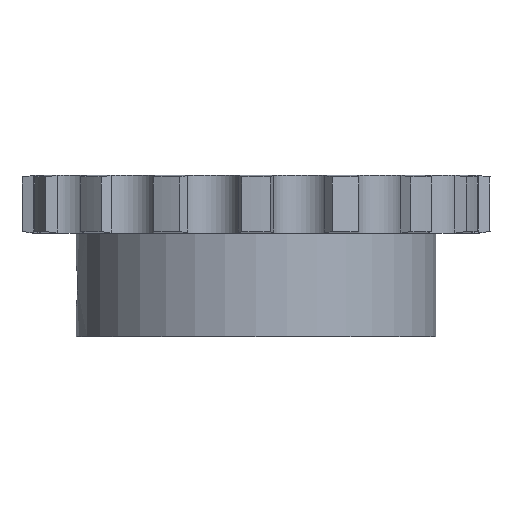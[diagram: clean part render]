
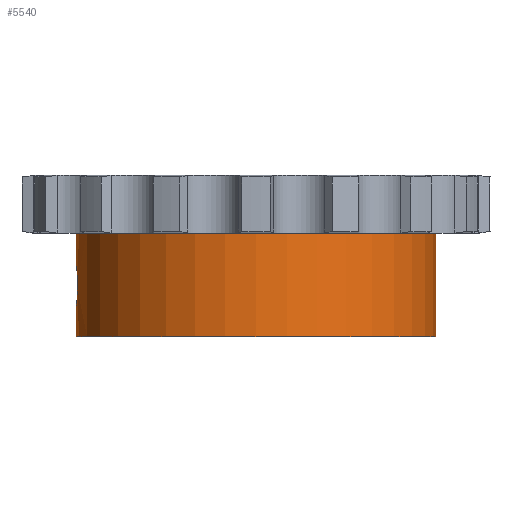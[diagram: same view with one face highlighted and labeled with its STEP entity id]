
A CAD part, front view. The second image highlights one B-rep face of the part: STEP entity #5540.
In plain terms, the highlighted cylindrical face has radius 50 mm (diameter 100 mm), a partial arc.
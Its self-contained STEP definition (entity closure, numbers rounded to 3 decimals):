
#1039=CARTESIAN_POINT('',(0.,0.,-8.1));
#1040=DIRECTION('',(0.,0.,1.));
#1041=DIRECTION('',(-1.,0.,0.));
#1042=AXIS2_PLACEMENT_3D('',#1039,#1040,#1041);
#2590=CARTESIAN_POINT('',(-50.,0.,
-16.5));
#2615=DIRECTION('',(0.,0.,1.));
#2616=VECTOR('',#2615,28.8);
#2617=CARTESIAN_POINT('',(50.,0.,-36.9));
#2618=LINE('',#2617,#2616);
#2744=CARTESIAN_POINT('',(-50.,0.,
-16.5));
#2745=CARTESIAN_POINT('',(-50.,-0.226,
-16.5));
#2746=CARTESIAN_POINT('',(-49.997,-0.706,
-16.526));
#2747=CARTESIAN_POINT('',(-49.981,-1.431,
-16.651));
#2748=CARTESIAN_POINT('',(-49.955,-2.16,
-16.871));
#2749=CARTESIAN_POINT('',(-49.92,-2.855,
-17.178));
#2750=CARTESIAN_POINT('',(-49.878,-3.506,
-17.569));
#2751=CARTESIAN_POINT('',(-49.832,-4.103,
-18.035));
#2752=CARTESIAN_POINT('',(-49.786,-4.633,
-18.568));
#2753=CARTESIAN_POINT('',(-49.741,-5.09,
-19.158));
#2754=CARTESIAN_POINT('',(-49.7,-5.47,
-19.799));
#2755=CARTESIAN_POINT('',(-49.666,-5.767,
-20.482));
#2756=CARTESIAN_POINT('',(-49.642,-5.975,
-21.191));
#2757=CARTESIAN_POINT('',(-49.628,-6.085,
-21.869));
#2758=CARTESIAN_POINT('',(-49.626,-6.107,
-22.305));
#2759=CARTESIAN_POINT('',(-49.626,-6.107,
-22.5));
#2764=DIRECTION('',(0.,0.,1.));
#2765=VECTOR('',#2764,8.4);
#2766=CARTESIAN_POINT('',(-50.,0.,
-16.5));
#2767=LINE('',#2766,#2765);
#2771=DIRECTION('',(0.,0.,1.));
#2772=VECTOR('',#2771,8.4);
#2773=CARTESIAN_POINT('',(-50.,0.,-36.9));
#2774=LINE('',#2773,#2772);
#2778=CARTESIAN_POINT('',(-49.626,-6.107,
-22.5));
#2779=CARTESIAN_POINT('',(-49.626,-6.107,
-22.706));
#2780=CARTESIAN_POINT('',(-49.629,-6.084,
-23.153));
#2781=CARTESIAN_POINT('',(-49.643,-5.968,
-23.84));
#2782=CARTESIAN_POINT('',(-49.668,-5.757,
-24.546));
#2783=CARTESIAN_POINT('',(-49.702,-5.458,
-25.225));
#2784=CARTESIAN_POINT('',(-49.742,-5.077,
-25.862));
#2785=CARTESIAN_POINT('',(-49.787,-4.619,
-26.448));
#2786=CARTESIAN_POINT('',(-49.834,-4.089,
-26.977));
#2787=CARTESIAN_POINT('',(-49.879,-3.494,
-27.44));
#2788=CARTESIAN_POINT('',(-49.921,-2.844,
-27.827));
#2789=CARTESIAN_POINT('',(-49.955,-2.151,
-28.132));
#2790=CARTESIAN_POINT('',(-49.982,-1.425,
-28.35));
#2791=CARTESIAN_POINT('',(-49.997,-0.703,
-28.474));
#2792=CARTESIAN_POINT('',(-50.,-0.225,
-28.5));
#2793=CARTESIAN_POINT('',(-50.,0.,
-28.5));
#2806=CARTESIAN_POINT('',(0.,0.,-36.9));
#2807=DIRECTION('',(0.,0.,-1.));
#2808=DIRECTION('',(1.,0.,0.));
#2809=AXIS2_PLACEMENT_3D('',#2806,#2807,#2808);
#3167=CARTESIAN_POINT('',(-50.,0.,-36.9));
#3168=CARTESIAN_POINT('',(50.,0.,-36.9));
#3169=VERTEX_POINT('',#3167);
#3170=VERTEX_POINT('',#3168);
#3171=CARTESIAN_POINT('',(50.,0.,-8.1));
#3172=VERTEX_POINT('',#3171);
#3173=CARTESIAN_POINT('',(-50.,0.,-8.1));
#3174=VERTEX_POINT('',#3173);
#3332=VERTEX_POINT('',#2590);
#3335=VERTEX_POINT('',#2759);
#3337=VERTEX_POINT('',#2793);
#5524=CARTESIAN_POINT('',(0.,0.,8.1));
#5525=DIRECTION('',(0.,0.,1.));
#5526=DIRECTION('',(1.,0.,0.));
#5527=AXIS2_PLACEMENT_3D('',#5524,#5525,#5526);
#5528=CYLINDRICAL_SURFACE('',#5527,50.);
#5529=ORIENTED_EDGE('',*,*,#5514,.F.);
#5530=ORIENTED_EDGE('',*,*,#5053,.T.);
#5531=ORIENTED_EDGE('',*,*,#4444,.T.);
#5532=ORIENTED_EDGE('',*,*,#5050,.F.);
#5534=ORIENTED_EDGE('',*,*,#5533,.T.);
#5535=ORIENTED_EDGE('',*,*,#5046,.T.);
#5537=ORIENTED_EDGE('',*,*,#5536,.F.);
#5538=EDGE_LOOP('',(#5529,#5530,#5531,#5532,#5534,#5535,#5537));
#5539=FACE_OUTER_BOUND('',#5538,.F.);
#5540=ADVANCED_FACE('',(#5539),#5528,.T.);
#1043=CIRCLE('',#1042,50.);
#2760=B_SPLINE_CURVE_WITH_KNOTS('',3,(#2744,#2745,#2746,#2747,#2748,#2749,#2750,
#2751,#2752,#2753,#2754,#2755,#2756,#2757,#2758,#2759),.UNSPECIFIED.,.F.,.F.,(4,
1,1,1,1,1,1,1,1,1,1,1,1,4),(0.,0.07,0.149,
0.228,0.306,0.385,0.464,
0.542,0.621,0.7,0.778,
0.857,0.935,1.),.UNSPECIFIED.);
#2794=B_SPLINE_CURVE_WITH_KNOTS('',3,(#2778,#2779,#2780,#2781,#2782,#2783,#2784,
#2785,#2786,#2787,#2788,#2789,#2790,#2791,#2792,#2793),.UNSPECIFIED.,.F.,.F.,(4,
1,1,1,1,1,1,1,1,1,1,1,1,4),(0.,0.068,0.147,
0.225,0.303,0.382,0.46,
0.538,0.617,0.695,0.773,
0.852,0.93,1.),.UNSPECIFIED.);
#2810=CIRCLE('',#2809,50.);
#4444=EDGE_CURVE('',#3174,#3172,#1043,.T.);
#5046=EDGE_CURVE('',#3169,#3337,#2774,.T.);
#5050=EDGE_CURVE('',#3170,#3172,#2618,.T.);
#5053=EDGE_CURVE('',#3332,#3174,#2767,.T.);
#5514=EDGE_CURVE('',#3332,#3335,#2760,.T.);
#5533=EDGE_CURVE('',#3170,#3169,#2810,.T.);
#5536=EDGE_CURVE('',#3335,#3337,#2794,.T.);
